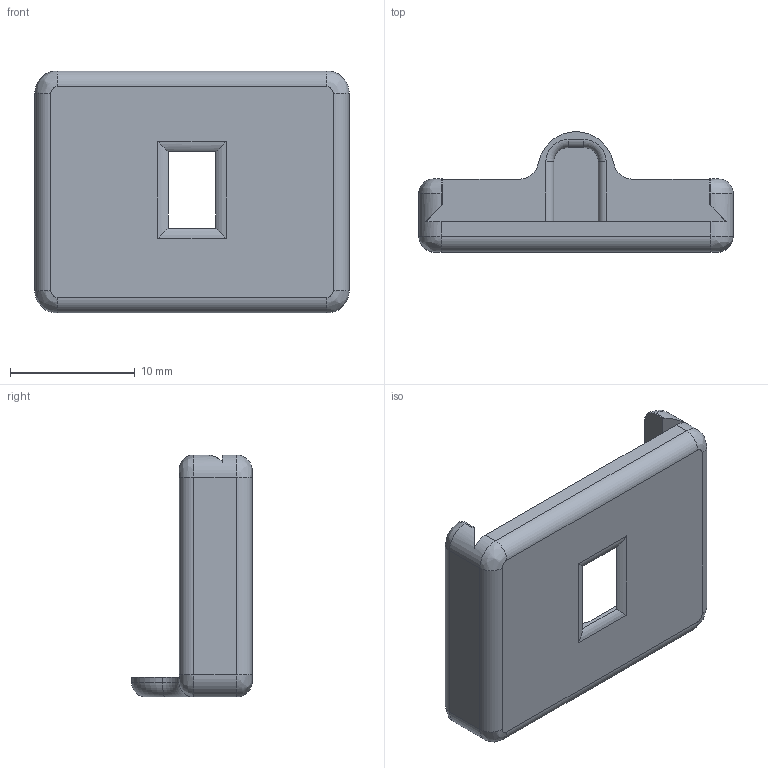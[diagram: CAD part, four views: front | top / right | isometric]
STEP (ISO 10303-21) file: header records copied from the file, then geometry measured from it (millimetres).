
FILE_DESCRIPTION(/* description */ (''),/* implementation_level */ '2;1');
FILE_NAME(/* name */ 'Sensor Housing.step',/* time_stamp */ '2026-02-11T07:58:02-06:00',/* author */ (''),/* organization */ (''),/* preprocessor_version */ 'ST-DEVELOPER v20.1',/* originating_system */ 'Autodesk Translation Framework v14.24.0.0',/* authorisation */ '');
FILE_SCHEMA (('AUTOMOTIVE_DESIGN { 1 0 10303 214 3 1 1 }'));
Length unit declared in the file: inch
Products named in the file (1): Sensor Housing - 01
Bounding box: 25.15 x 9.65 x 19.36 mm (x, y, z)
Volume: 915.5 mm3; surface area: 1726.4 mm2
Topology: 1 solids, 1 shells, 70 faces, 174 edges, 108 vertices
Faces by surface type: plane 31, cylinder 26, bspline 8, torus 5
Entity records: 2144 total; most frequent: CARTESIAN_POINT 417, DIRECTION 367, ORIENTED_EDGE 348, EDGE_CURVE 174, AXIS2_PLACEMENT_3D 130, VERTEX_POINT 108, LINE 107, VECTOR 107
